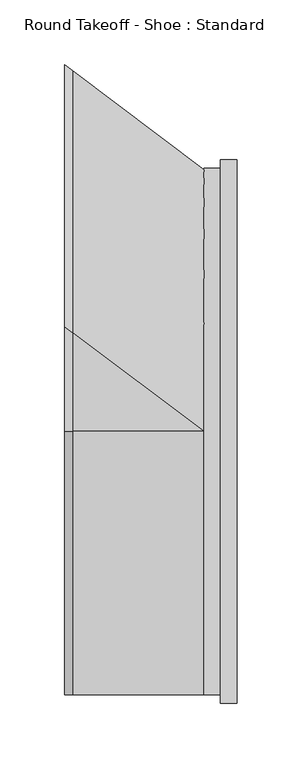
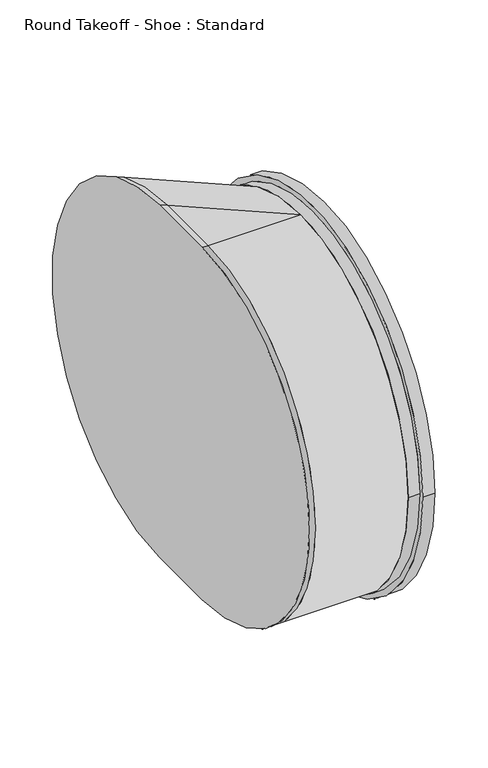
"""IFC4 building model written with IfcOpenShell, lengths in millimetres: duct fitting geometry, Round Takeoff - Shoe : Standard."""

from ifc_helpers import new_model, si_unit, point, frame, origin, place, context, project, spatial, circle_curve, trimmed, source, transform, mapped, element, save
from ifc_brep_helpers import plane_surface, cylinder_surface, extruded_surface, advanced_brep


def round_takeoff_shoe_standard_229a81f8(model_context):
    return source(origin(), model_context, "Body", "AdvancedBrep", [
        advanced_brep(
        [(127.0, 209.55, 0.0), (127.0, -209.55, 0.0), (101.6, 203.2, 0.0), (101.6, -203.2, 0.0), (114.0743747, 203.2, 0.0), (114.0743747, -203.2, 0.0), (114.0743747, 209.55, 0.0), (114.0743747, -209.55, 0.0)],
        [
            (0, 1, circle_curve(frame((127.0, 0.0, 0.0), z_axis=(1.0, 0.0, 0.0), x_axis=(0.0, -1.0, 0.0)), 209.55)),
            (1, 0, circle_curve(frame((127.0, 0.0, 0.0), z_axis=(1.0, 0.0, 0.0), x_axis=(0.0, -1.0, 0.0)), 209.55)),
            (2, 3, circle_curve(frame((101.6, 0.0, 0.0), z_axis=(-1.0, 0.0, 0.0), x_axis=(0.0, -1.0, 0.0)), 203.2)),
            (3, 2, circle_curve(frame((101.6, 0.0, 0.0), z_axis=(-1.0, 0.0, 0.0), x_axis=(0.0, -1.0, 0.0)), 203.2)),
            (2, 4),
            (4, 5, circle_curve(frame((114.0743747, 0.0, 0.0), z_axis=(-1.0, 0.0, 0.0), x_axis=(0.0, -1.0, 0.0)), 203.2)),
            (5, 3),
            (5, 4, circle_curve(frame((114.0743747, 0.0, 0.0), z_axis=(-1.0, 0.0, 0.0), x_axis=(0.0, -1.0, 0.0)), 203.2)),
            (6, 7, circle_curve(frame((114.0743747, 0.0, 0.0), z_axis=(-1.0, 0.0, 0.0), x_axis=(0.0, -1.0, 0.0)), 209.55)),
            (7, 6, circle_curve(frame((114.0743747, 0.0, 0.0), z_axis=(-1.0, 0.0, 0.0), x_axis=(0.0, -1.0, 0.0)), 209.55)),
            (1, 7),
            (6, 0),
        ],
        [
            plane_surface(frame((127.0, -203.2, 0.0), z_axis=(1.0, 0.0, 0.0), x_axis=(0.0, 0.0, 1.0))),
            plane_surface(frame((101.6, -203.2, 0.0), z_axis=(-1.0, 0.0, 0.0), x_axis=(0.0, 0.0, -1.0))),
            cylinder_surface(frame((101.6, 0.0, 0.0), z_axis=(1.0, 0.0, 0.0), x_axis=(0.0, -1.0, 0.0)), 203.2),
            plane_surface(frame((114.0743747, -209.55, 0.0), z_axis=(-1.0, 0.0, 0.0), x_axis=(0.0, 0.0, -1.0))),
            cylinder_surface(frame((114.0743747, 0.0, 0.0), z_axis=(1.0, 0.0, 0.0), x_axis=(0.0, -1.0, 0.0)), 209.55),
        ],
        [
            (0, [[1, 2]]),
            (1, [[3, 4]]),
            (2, [[5, 6, 7, -3]]),
            (2, [[-7, 8, -5, -4]]),
            (3, [[9, 10], [-8, -6]]),
            (4, [[11, -9, 12, -2]]),
            (4, [[-12, -10, -11, -1]]),
        ],
    ),
        advanced_brep(
        [(-6.096, 0.0, -203.2), (-6.096, 0.0, 203.2), (-6.096, 80.772, 203.2), (-6.096, 80.772, -203.2), (0.0, 0.0, -203.2), (0.0, 76.2, -203.2), (0.0, 76.2, 203.2), (0.0, 0.0, 203.2)],
        [
            (0, 1, circle_curve(frame((-6.096, 0.0, 0.0), z_axis=(-1.0, 0.0, 0.0), x_axis=(0.0, -1.0, 0.0)), 203.2)),
            (1, 2),
            (2, 3, circle_curve(frame((-6.096, 80.772, 0.0), z_axis=(-1.0, 0.0, 0.0), x_axis=(0.0, -1.0, 0.0)), 203.2)),
            (3, 0),
            (4, 5),
            (5, 6, circle_curve(frame((0.0, 76.2, 0.0), z_axis=(1.0, 0.0, 0.0), x_axis=(0.0, -1.0, 0.0)), 203.2)),
            (6, 7),
            (7, 4, circle_curve(frame((0.0, 0.0, 0.0), z_axis=(1.0, 0.0, 0.0), x_axis=(0.0, -1.0, 0.0)), 203.2)),
            (4, 0),
            (3, 5),
            (2, 6),
            (1, 7),
        ],
        [
            plane_surface(frame((-6.096, 40.386, 0.0), z_axis=(-1.0, 0.0, 0.0), x_axis=(0.0, -1.0, 0.0))),
            plane_surface(frame((0.0, 38.1, 0.0), z_axis=(1.0, 0.0, 0.0), x_axis=(0.0, -1.0, 0.0))),
            plane_surface(frame((0.0, 38.1, -203.2), z_axis=(0.0, 0.0, -1.0), x_axis=(0.0, 1.0, 0.0))),
            extruded_surface(trimmed(circle_curve(frame((-6.096, 80.772, 0.0), z_axis=(1.0, 0.0, 0.0), x_axis=(0.0, -1.0, 0.0)), 203.2), [point((-6.096, 80.772, -203.2))], [point((-6.096, 80.772, 203.2))], True, "CARTESIAN"), (6.096, -4.572000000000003, 0.0), 7.620000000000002),
            plane_surface(frame((0.0, 38.1, 203.2), z_axis=(0.0, 0.0, 1.0), x_axis=(0.0, -1.0, 0.0))),
            cylinder_surface(frame((0.0, 0.0, 0.0), z_axis=(-1.0, 0.0, 0.0), x_axis=(0.0, -1.0, 0.0)), 203.2),
        ],
        [
            (0, [[1, 2, 3, 4]]),
            (1, [[5, 6, 7, 8]]),
            (2, [[9, -4, 10, -5]]),
            (3, [[-10, -3, 11, -6]]),
            (4, [[-11, -2, 12, -7]]),
            (5, [[-12, -1, -9, -8]]),
        ],
    ),
        advanced_brep(
        [(101.6, 0.0, -203.2), (101.6, 0.0, 203.2), (0.0, 0.0, -203.2), (0.0, 0.0, 203.2), (0.0, 76.2, 203.2), (0.0, 76.2, -203.2)],
        [
            (0, 1, circle_curve(frame((101.6, 0.0, 0.0), z_axis=(1.0, 0.0, 0.0), x_axis=(0.0, -1.0, 0.0)), 203.2)),
            (1, 0, circle_curve(frame((101.6, 0.0, 0.0), z_axis=(1.0, 0.0, 0.0), x_axis=(0.0, -1.0, 0.0)), 203.2)),
            (2, 3, circle_curve(frame((0.0, 0.0, 0.0), z_axis=(-1.0, 0.0, 0.0), x_axis=(0.0, -1.0, 0.0)), 203.2)),
            (3, 4),
            (4, 5, circle_curve(frame((0.0, 76.2, 0.0), z_axis=(-1.0, 0.0, 0.0), x_axis=(0.0, -1.0, 0.0)), 203.2)),
            (5, 2),
            (2, 0),
            (1, 3),
            (1, 4),
            (0, 5),
        ],
        [
            plane_surface(frame((101.6, 0.0, 0.0), z_axis=(1.0, 0.0, 0.0), x_axis=(0.0, -1.0, 0.0))),
            plane_surface(frame((0.0, 38.1, 0.0), z_axis=(-1.0, 0.0, 0.0), x_axis=(0.0, -1.0, 0.0))),
            cylinder_surface(frame((0.0, 0.0, 0.0), z_axis=(1.0, 0.0, 0.0), x_axis=(0.0, -1.0, 0.0)), 203.2),
            plane_surface(frame((0.0, 38.1, 203.2), z_axis=(0.0, 0.0, 1.0), x_axis=(0.0, 1.0, 0.0))),
            extruded_surface(trimmed(circle_curve(frame((101.6, 0.0, 0.0), z_axis=(-1.0, 0.0, 0.0), x_axis=(0.0, -1.0, 0.0)), 203.2), [point((101.6, 0.0, 203.2))], [point((101.6, 0.0, -203.2))], True, "CARTESIAN"), (-101.6, 76.2, 0.0), 127.0),
            plane_surface(frame((0.0, 38.1, -203.2), z_axis=(0.0, 0.0, -1.0), x_axis=(0.0, -1.0, 0.0))),
        ],
        [
            (0, [[1, 2]]),
            (1, [[3, 4, 5, 6]]),
            (2, [[7, -2, 8, -3]]),
            (3, [[-8, 9, -4]]),
            (4, [[-9, -1, 10, -5]]),
            (5, [[-10, -7, -6]]),
        ],
    ),
    ])


if __name__ == "__main__":
    model = new_model("IFC4")
    model_context = context("Model", 3, world=origin())
    ifc_project = project(units=[si_unit("LENGTHUNIT", "METRE", prefix="MILLI")], contexts=[model_context])
    site = spatial("IfcSite", under=ifc_project)
    building = spatial("IfcBuilding", under=site)
    placement = place(None, origin())
    round_takeoff_shoe_standard_shape = round_takeoff_shoe_standard_229a81f8(model_context)
    element("IfcDuctFitting", 1, ObjectType="Round Takeoff - Shoe : Standard", at=placement, inside=building, context=model_context, shape_type="MappedRepresentation", body=[
        mapped(round_takeoff_shoe_standard_shape, transform((0.0, 0.0, 0.0), x_axis=(1.0, 0.0, 0.0), y_axis=(0.0, 1.0, 0.0), z_axis=(0.0, 0.0, 1.0))),
    ])
    save(model, "model.ifc")
